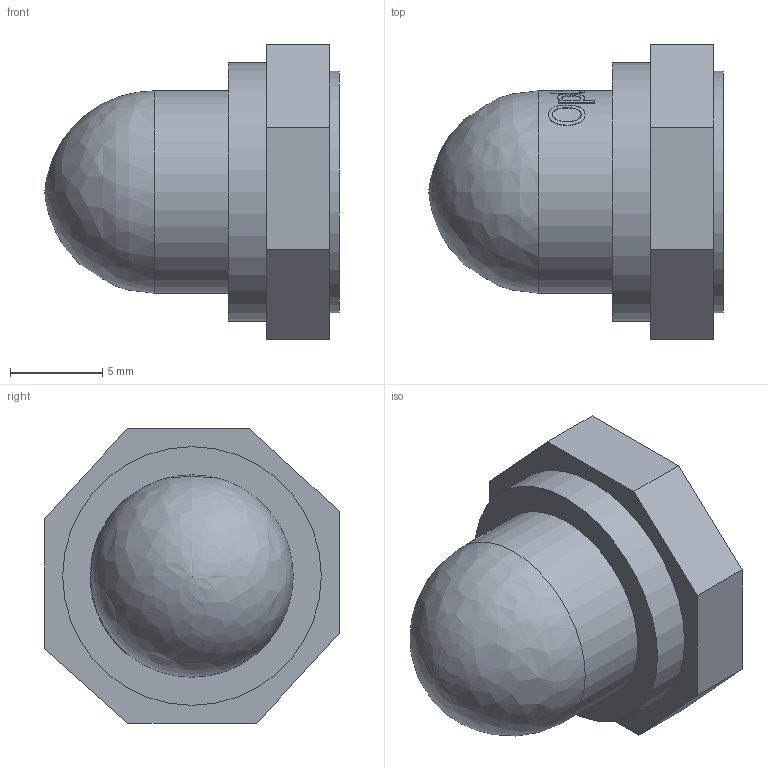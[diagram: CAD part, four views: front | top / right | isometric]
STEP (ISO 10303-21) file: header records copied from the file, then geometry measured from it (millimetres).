
FILE_DESCRIPTION(/* description */ (''),/* implementation_level */ '2;1');
FILE_NAME(/* name */ 'C:\Users\Hani\Desktop\work\CBW-B-TC-11\CBW-B-TC-11.stp',/* time_stamp */ '2021-10-02T10:58:21-07:00',/* author */ ('Hani'),/* organization */ (''),/* preprocessor_version */ 'ST-DEVELOPER v17',/* originating_system */ 'Autodesk Inventor 2019',/* authorisation */ '');
FILE_SCHEMA (('AUTOMOTIVE_DESIGN { 1 0 10303 214 3 1 1 }'));
Length unit declared in the file: inch
Products named in the file (1): CBW-B-TC-11
Bounding box: 16 x 16 x 16 mm (x, y, z)
Volume: 768.4 mm3; surface area: 1477.9 mm2
Topology: 1 solids, 1 shells, 162 faces, 432 edges, 290 vertices
Faces by surface type: plane 73, bspline 69, cylinder 20
Full cylindrical faces by diameter (mm): 9.222 x1, 11 x2, 11.85 x1, 12.27 x1, 13.12 x1, 13.859 x1, 14.048 x1
Entity records: 6873 total; most frequent: CARTESIAN_POINT 3164, ORIENTED_EDGE 860, DIRECTION 562, EDGE_CURVE 430, VERTEX_POINT 290, LINE 218, VECTOR 218, EDGE_LOOP 182
